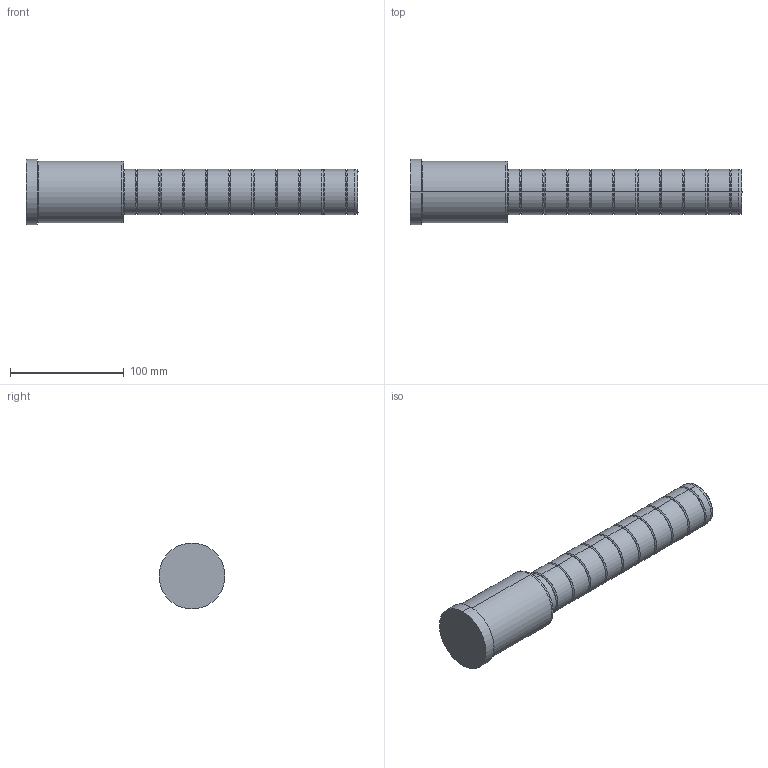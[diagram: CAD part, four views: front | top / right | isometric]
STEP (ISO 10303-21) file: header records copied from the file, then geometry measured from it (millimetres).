
FILE_DESCRIPTION( ( 'STEP AP203' ), '1' );
FILE_NAME( 'C:/Projects/D02 - 40x86x206.step', '2003-01-04T14:11:47', ( ' ' ), ( ' ' ), 'XStep 1.0', ' ', ' ' );
FILE_SCHEMA( ( 'CONFIG_CONTROL_DESIGN' ) );
Length unit declared in the file: metre
Products named in the file (1): 1
Bounding box: 292 x 58 x 58 mm (x, y, z)
Volume: 457359.3 mm3; surface area: 47005.1 mm2
Topology: 1 solids, 1 shells, 84 faces, 166 edges, 88 vertices
Faces by surface type: bspline 50, revolution 34
Entity records: 2711 total; most frequent: CARTESIAN_POINT 1217, ORIENTED_EDGE 332, DIRECTION 246, EDGE_CURVE 166, AXIS2_PLACEMENT_3D 89, EDGE_LOOP 88, VERTEX_POINT 88, CIRCLE 88
